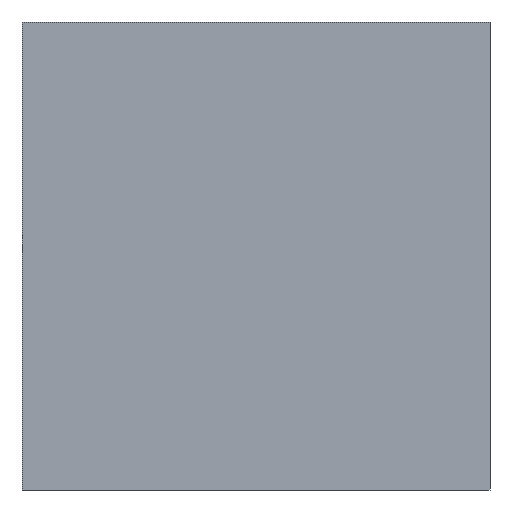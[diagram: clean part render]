
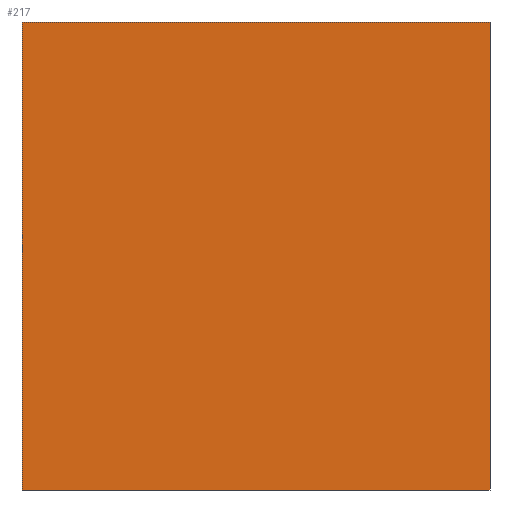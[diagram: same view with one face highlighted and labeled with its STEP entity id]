
A CAD part, front view. The second image highlights one B-rep face of the part: STEP entity #217.
In plain terms, the highlighted planar face has unit normal (0, -1, 0).
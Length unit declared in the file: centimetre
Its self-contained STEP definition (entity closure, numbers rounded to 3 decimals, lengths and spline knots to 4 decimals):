
#16 = VERTEX_POINT ( 'NONE', #182 ) ;
#56 = DIRECTION ( 'NONE',  ( 0., 0., 1. ) ) ;
#69 = PLANE ( 'NONE',  #339 ) ;
#74 = VECTOR ( 'NONE', #244, 100. ) ;
#93 = CARTESIAN_POINT ( 'NONE',  ( 1000., 0., 1000. ) ) ;
#107 = EDGE_CURVE ( 'NONE', #362, #16, #199, .T. ) ;
#146 = VECTOR ( 'NONE', #320, 100. ) ;
#182 = CARTESIAN_POINT ( 'NONE',  ( 1000., 0., 0. ) ) ;
#183 = EDGE_CURVE ( 'NONE', #409, #317, #212, .T. ) ;
#199 = LINE ( 'NONE', #539, #74 ) ;
#205 = ORIENTED_EDGE ( 'NONE', *, *, #183, .T. ) ;
#212 = LINE ( 'NONE', #338, #315 ) ;
#217 = ADVANCED_FACE ( 'NONE', ( #418 ), #69, .F. ) ;
#244 = DIRECTION ( 'NONE',  ( 0., 0., -1. ) ) ;
#259 = EDGE_CURVE ( 'NONE', #409, #362, #443, .T. ) ;
#275 = EDGE_LOOP ( 'NONE', ( #549, #446, #367, #205 ) ) ;
#277 = CARTESIAN_POINT ( 'NONE',  ( 0., 0., 1000. ) ) ;
#290 = CARTESIAN_POINT ( 'NONE',  ( 0., 0., 1000. ) ) ;
#313 = CARTESIAN_POINT ( 'NONE',  ( 0., 0., 0. ) ) ;
#315 = VECTOR ( 'NONE', #511, 100. ) ;
#317 = VERTEX_POINT ( 'NONE', #385 ) ;
#320 = DIRECTION ( 'NONE',  ( 1., 0., 0. ) ) ;
#338 = CARTESIAN_POINT ( 'NONE',  ( 0., 0., 1000. ) ) ;
#339 = AXIS2_PLACEMENT_3D ( 'NONE', #404, #435, #56 ) ;
#360 = EDGE_CURVE ( 'NONE', #317, #16, #519, .T. ) ;
#362 = VERTEX_POINT ( 'NONE', #93 ) ;
#364 = VECTOR ( 'NONE', #474, 100. ) ;
#367 = ORIENTED_EDGE ( 'NONE', *, *, #259, .F. ) ;
#385 = CARTESIAN_POINT ( 'NONE',  ( 0., 0., 0. ) ) ;
#404 = CARTESIAN_POINT ( 'NONE',  ( 0., 0., 1000. ) ) ;
#409 = VERTEX_POINT ( 'NONE', #290 ) ;
#418 = FACE_OUTER_BOUND ( 'NONE', #275, .T. ) ;
#435 = DIRECTION ( 'NONE',  ( 0., 1., 0. ) ) ;
#443 = LINE ( 'NONE', #277, #146 ) ;
#446 = ORIENTED_EDGE ( 'NONE', *, *, #107, .F. ) ;
#474 = DIRECTION ( 'NONE',  ( 1., 0., 0. ) ) ;
#511 = DIRECTION ( 'NONE',  ( 0., 0., -1. ) ) ;
#519 = LINE ( 'NONE', #313, #364 ) ;
#539 = CARTESIAN_POINT ( 'NONE',  ( 1000., 0., 1000. ) ) ;
#549 = ORIENTED_EDGE ( 'NONE', *, *, #360, .T. ) ;
